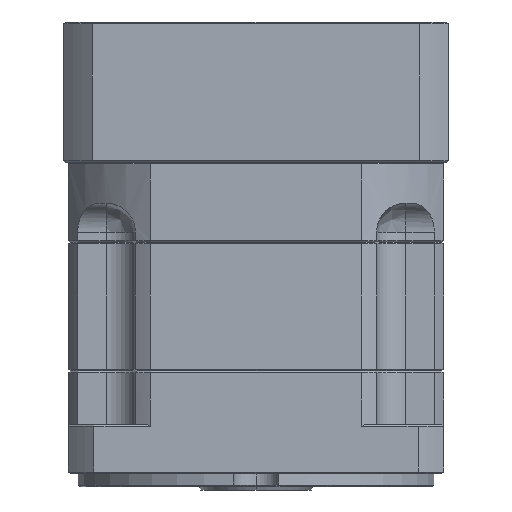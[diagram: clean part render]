
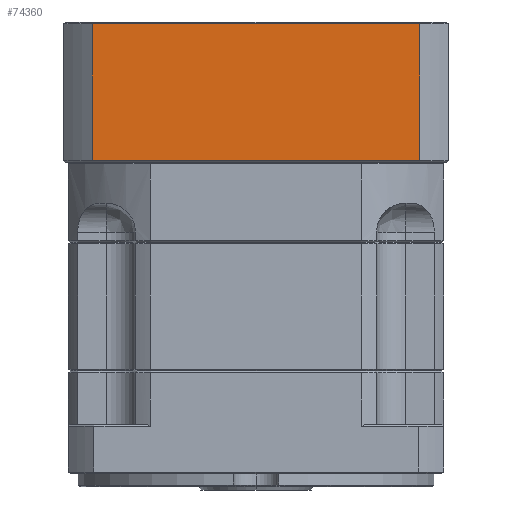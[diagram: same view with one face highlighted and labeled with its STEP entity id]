
A CAD part, left-side view. The second image highlights one B-rep face of the part: STEP entity #74360.
In plain terms, the highlighted planar face has unit normal (-1, 0, 0).
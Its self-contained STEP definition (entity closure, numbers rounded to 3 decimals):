
#446 = CARTESIAN_POINT ( 'NONE',  ( -9.946, 9.632, 4.842 ) ) ;
#2295 = VECTOR ( 'NONE', #74475, 1000. ) ;
#6474 = FACE_OUTER_BOUND ( 'NONE', #133810, .T. ) ;
#8076 = ORIENTED_EDGE ( 'NONE', *, *, #14083, .F. ) ;
#14083 = EDGE_CURVE ( 'NONE', #94930, #122451, #83090, .T. ) ;
#19244 = DIRECTION ( 'NONE',  ( 1., 0., 0. ) ) ;
#26857 = VECTOR ( 'NONE', #82456, 1000. ) ;
#30505 = CARTESIAN_POINT ( 'NONE',  ( -9.946, 110.136, -37.158 ) ) ;
#31157 = AXIS2_PLACEMENT_3D ( 'NONE', #81889, #19244, #39453 ) ;
#33623 = VECTOR ( 'NONE', #55273, 1000. ) ;
#34726 = VERTEX_POINT ( 'NONE', #446 ) ;
#38423 = LINE ( 'NONE', #117237, #33623 ) ;
#39135 = CARTESIAN_POINT ( 'NONE',  ( -9.946, 0.884, -37.158 ) ) ;
#39453 = DIRECTION ( 'NONE',  ( 0., 1., 0. ) ) ;
#41511 = CARTESIAN_POINT ( 'NONE',  ( -9.946, 110.136, 5.342 ) ) ;
#54207 = LINE ( 'NONE', #39135, #26857 ) ;
#54469 = EDGE_CURVE ( 'NONE', #34726, #96488, #38423, .T. ) ;
#55273 = DIRECTION ( 'NONE',  ( 0., 0., -1. ) ) ;
#70798 = ORIENTED_EDGE ( 'NONE', *, *, #54469, .F. ) ;
#74022 = CARTESIAN_POINT ( 'NONE',  ( -9.946, 0.884, 4.842 ) ) ;
#74360 = ADVANCED_FACE ( 'NONE', ( #6474 ), #110344, .F. ) ;
#74475 = DIRECTION ( 'NONE',  ( 0., -1., 0. ) ) ;
#81061 = CARTESIAN_POINT ( 'NONE',  ( -9.946, 9.632, -37.158 ) ) ;
#81889 = CARTESIAN_POINT ( 'NONE',  ( -9.946, 0.884, 5.342 ) ) ;
#82456 = DIRECTION ( 'NONE',  ( 0., -1., 0. ) ) ;
#83090 = LINE ( 'NONE', #41511, #108979 ) ;
#89224 = ORIENTED_EDGE ( 'NONE', *, *, #107494, .F. ) ;
#91032 = LINE ( 'NONE', #74022, #2295 ) ;
#94930 = VERTEX_POINT ( 'NONE', #30505 ) ;
#96488 = VERTEX_POINT ( 'NONE', #81061 ) ;
#105033 = EDGE_CURVE ( 'NONE', #94930, #96488, #54207, .T. ) ;
#107494 = EDGE_CURVE ( 'NONE', #122451, #34726, #91032, .T. ) ;
#108979 = VECTOR ( 'NONE', #132650, 1000. ) ;
#110344 = PLANE ( 'NONE',  #31157 ) ;
#117237 = CARTESIAN_POINT ( 'NONE',  ( -9.946, 9.632, -259.053 ) ) ;
#117648 = ORIENTED_EDGE ( 'NONE', *, *, #105033, .T. ) ;
#122451 = VERTEX_POINT ( 'NONE', #133625 ) ;
#132650 = DIRECTION ( 'NONE',  ( 0., 0., 1. ) ) ;
#133625 = CARTESIAN_POINT ( 'NONE',  ( -9.946, 110.136, 4.842 ) ) ;
#133810 = EDGE_LOOP ( 'NONE', ( #117648, #70798, #89224, #8076 ) ) ;
